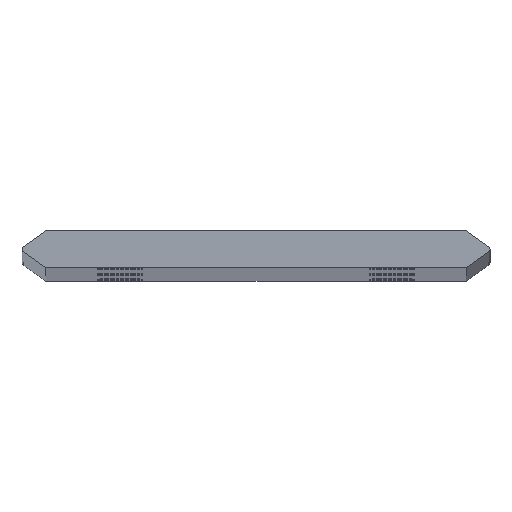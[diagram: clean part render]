
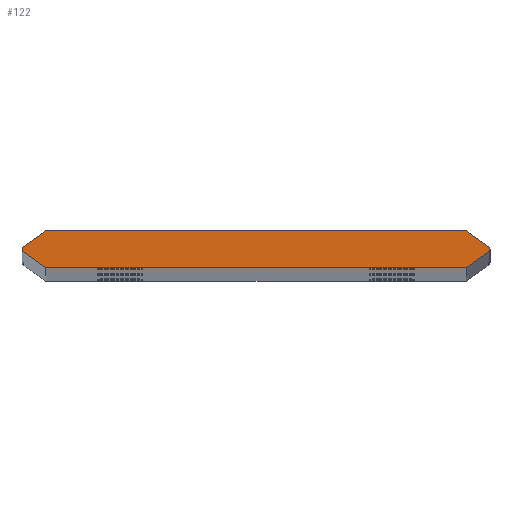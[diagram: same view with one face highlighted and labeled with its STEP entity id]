
A CAD part, top view. The second image highlights one B-rep face of the part: STEP entity #122.
In plain terms, the highlighted planar face has unit normal (0, 0, 1).
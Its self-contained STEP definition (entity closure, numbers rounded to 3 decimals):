
#122=ADVANCED_FACE('',(#226),#227,.T.);
#226=FACE_OUTER_BOUND('',#382,.T.);
#227=PLANE('',#383);
#382=EDGE_LOOP('',(#773,#774,#775,#776,#777,#778,#779,#780,#781,#782));
#383=AXIS2_PLACEMENT_3D('',#783,#784,#785);
#773=ORIENTED_EDGE('',*,*,#941,.T.);
#774=ORIENTED_EDGE('',*,*,#1078,.T.);
#775=ORIENTED_EDGE('',*,*,#1079,.F.);
#776=ORIENTED_EDGE('',*,*,#1080,.F.);
#777=ORIENTED_EDGE('',*,*,#1081,.F.);
#778=ORIENTED_EDGE('',*,*,#937,.T.);
#779=ORIENTED_EDGE('',*,*,#1082,.T.);
#780=ORIENTED_EDGE('',*,*,#1083,.F.);
#781=ORIENTED_EDGE('',*,*,#1084,.F.);
#782=ORIENTED_EDGE('',*,*,#1085,.F.);
#783=CARTESIAN_POINT('',(0.0,0.,1976.0));
#784=DIRECTION('',(0.0,0.0,1.0));
#785=DIRECTION('',(1.0,0.0,0.0));
#937=EDGE_CURVE('',#1101,#1098,#1102,.T.);
#941=EDGE_CURVE('',#1109,#1106,#1110,.T.);
#1078=EDGE_CURVE('',#1106,#1336,#1338,.T.);
#1079=EDGE_CURVE('',#1339,#1336,#1340,.T.);
#1080=EDGE_CURVE('',#1341,#1339,#1342,.T.);
#1081=EDGE_CURVE('',#1101,#1341,#1343,.T.);
#1082=EDGE_CURVE('',#1098,#1344,#1345,.T.);
#1083=EDGE_CURVE('',#1346,#1344,#1347,.T.);
#1084=EDGE_CURVE('',#1348,#1346,#1349,.T.);
#1085=EDGE_CURVE('',#1109,#1348,#1350,.T.);
#1098=VERTEX_POINT('',#1368);
#1101=VERTEX_POINT('',#1372);
#1102=CIRCLE('',#1373,0.76);
#1106=VERTEX_POINT('',#1378);
#1109=VERTEX_POINT('',#1382);
#1110=CIRCLE('',#1383,0.76);
#1336=VERTEX_POINT('',#1654);
#1338=CIRCLE('',#1657,0.76);
#1339=VERTEX_POINT('',#1658);
#1340=LINE('',#1659,#1660);
#1341=VERTEX_POINT('',#1661);
#1342=LINE('',#1662,#1663);
#1343=LINE('',#1664,#1665);
#1344=VERTEX_POINT('',#1666);
#1345=CIRCLE('',#1667,0.76);
#1346=VERTEX_POINT('',#1668);
#1347=LINE('',#1669,#1670);
#1348=VERTEX_POINT('',#1671);
#1349=LINE('',#1672,#1673);
#1350=LINE('',#1674,#1675);
#1368=CARTESIAN_POINT('',(60.225,0.,1976.0));
#1372=CARTESIAN_POINT('',(59.904,-0.62,1976.0));
#1373=AXIS2_PLACEMENT_3D('',#1705,#1706,#1707);
#1378=CARTESIAN_POINT('',(-60.225,0.,1976.0));
#1382=CARTESIAN_POINT('',(-59.904,0.62,1976.0));
#1383=AXIS2_PLACEMENT_3D('',#1713,#1714,#1715);
#1654=CARTESIAN_POINT('',(-59.904,-0.62,1976.0));
#1657=AXIS2_PLACEMENT_3D('',#2032,#2033,#2034);
#1658=CARTESIAN_POINT('',(-54.056,-4.715,1976.0));
#1659=CARTESIAN_POINT('',(-60.79,0.,1976.0));
#1660=VECTOR('',#2035,1.0);
#1661=CARTESIAN_POINT('',(54.056,-4.715,1976.0));
#1662=CARTESIAN_POINT('',(54.056,-4.715,1976.0));
#1663=VECTOR('',#2036,1.0);
#1664=CARTESIAN_POINT('',(60.79,0.0,1976.0));
#1665=VECTOR('',#2037,1.0);
#1666=CARTESIAN_POINT('',(59.904,0.62,1976.0));
#1667=AXIS2_PLACEMENT_3D('',#2038,#2039,#2040);
#1668=CARTESIAN_POINT('',(54.056,4.715,1976.0));
#1669=CARTESIAN_POINT('',(60.79,0.0,1976.0));
#1670=VECTOR('',#2041,1.0);
#1671=CARTESIAN_POINT('',(-54.056,4.715,1976.0));
#1672=CARTESIAN_POINT('',(-54.056,4.715,1976.0));
#1673=VECTOR('',#2042,1.0);
#1674=CARTESIAN_POINT('',(-60.79,0.,1976.0));
#1675=VECTOR('',#2043,1.0);
#1705=CARTESIAN_POINT('',(59.465,0.0,1976.0));
#1706=DIRECTION('',(0.0,0.0,1.0));
#1707=DIRECTION('',(1.0,0.0,0.0));
#1713=CARTESIAN_POINT('',(-59.465,0.,1976.0));
#1714=DIRECTION('',(0.0,0.0,1.0));
#1715=DIRECTION('',(-1.0,0.,0.0));
#2032=CARTESIAN_POINT('',(-59.465,0.,1976.0));
#2033=DIRECTION('',(0.0,0.0,1.0));
#2034=DIRECTION('',(-1.0,0.,0.0));
#2035=DIRECTION('',(-0.819,0.574,0.0));
#2036=DIRECTION('',(-1.0,0.0,0.0));
#2037=DIRECTION('',(-0.819,-0.574,0.0));
#2038=CARTESIAN_POINT('',(59.465,0.0,1976.0));
#2039=DIRECTION('',(0.0,0.0,1.0));
#2040=DIRECTION('',(1.0,0.0,0.0));
#2041=DIRECTION('',(0.819,-0.574,0.0));
#2042=DIRECTION('',(1.0,0.,0.0));
#2043=DIRECTION('',(0.819,0.574,0.0));
